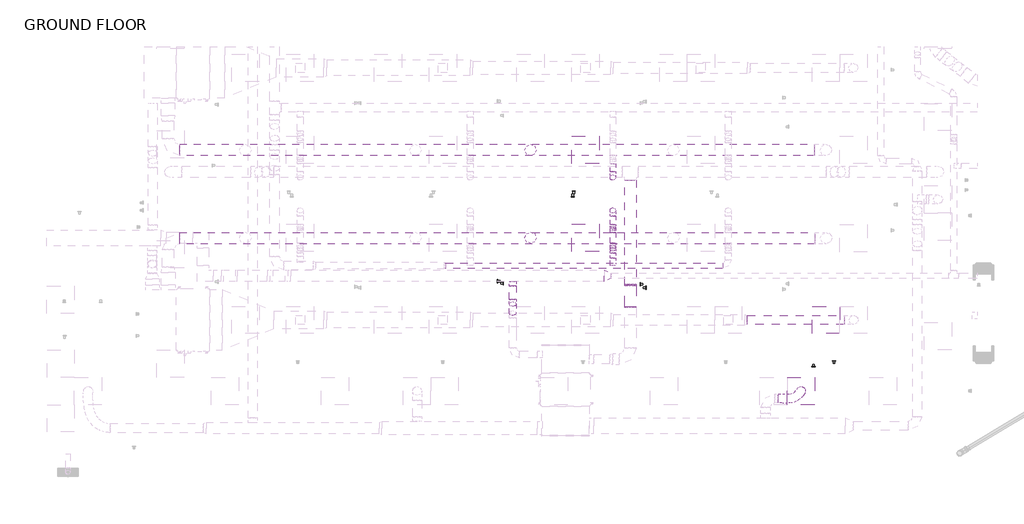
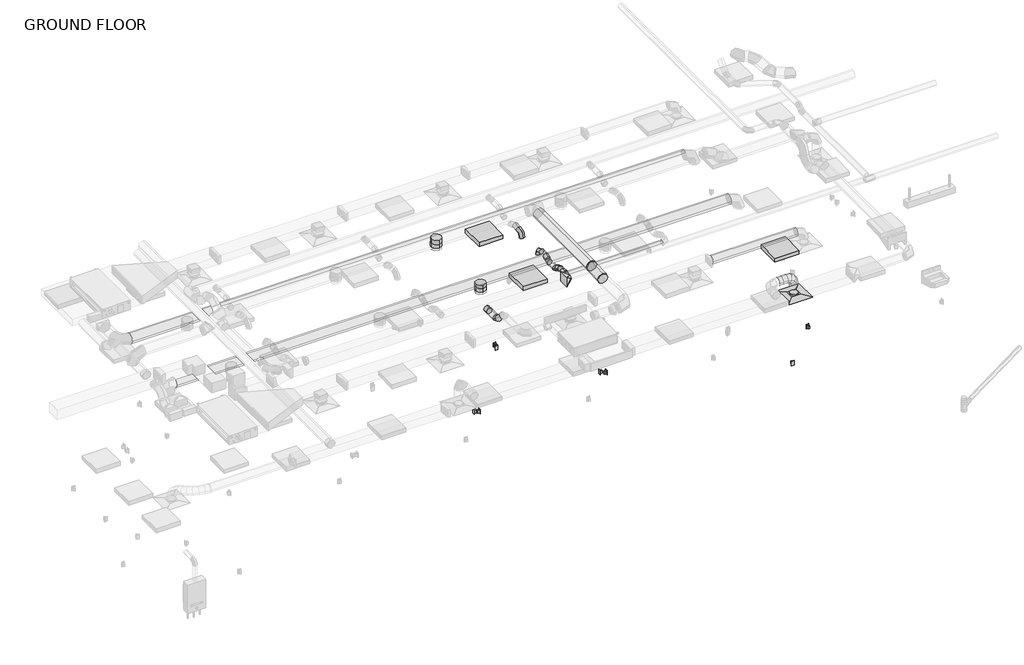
# One storey, part 5 of 21: 19 duct segments, 14 duct fittings, 7 proxies, 3 light fixtures, 1 air terminal, 1 switching device.
"""IFC4 building model written with IfcOpenShell, lengths in millimetres."""

from ifc_helpers import new_model, si_unit, point, frame, frame_2d, origin, place, context, project, spatial, circle_curve, ellipse_curve, trimmed, segment, composite_curve, outline, extrude, transform, mapped, element, save
from ifc_brep_helpers import plane_surface, cylinder_surface, advanced_brep
from components import air_terminal_e9020785, duplex_receptacle_countertop_10251bba, rectangular_to_round_transition_angle_45_degree_43dd9c00, round_elbow_1_d_c80420c1, round_elbow_1_d_9a27e954, round_elbow_1_d_e3dc691b, round_elbow_1_d_e085309a, round_elbow_1_d_538d8ec8, round_elbow_1_d_400cd2ab, round_elbow_1_d_88736f48, round_takeoff_standard_161717b3, round_takeoff_standard_0a2b6d05, round_takeoff_standard_c386a54e, round_takeoff_standard_cae0fe22, troffer_corner_insert_2x2_3lamp_e67c7f8f

model = new_model("IFC4")

# Units and contexts
model_context = context("Model", 3, world=origin())
ifc_project = project(units=[si_unit("LENGTHUNIT", "METRE", prefix="MILLI")], contexts=[model_context])

# Site, building, storey
site = spatial("IfcSite", under=ifc_project)
building = spatial("IfcBuilding", under=site)
storey = spatial("IfcBuildingStorey", under=building, Name="GROUND FLOOR", Elevation=30480.0)

# Air terminal
placement = place(None, origin())
air_terminal_shape = air_terminal_e9020785(model_context)
element("IfcAirTerminal", 1, ObjectType="Supply Diffuser - Rectangular Face Round Neck - Hosted : 24\"x24\" Face 8\" Neck - Hosted", at=placement, inside=storey, context=model_context, shape_type="MappedRepresentation", body=[
    mapped(air_terminal_shape, transform((7163.7545393, -5809.2554995, 33223.2), x_axis=(0.0, -1.0, 0.0), y_axis=(-1.0, 0.0, 0.0), z_axis=(0.0, 0.0, -1.0))),
])

# Proxies
duplex_receptacle_countertop_shape = duplex_receptacle_countertop_10251bba(model_context)
element("IfcBuildingElementProxy", 2, Name="Duplex Receptacle : Standard", ObjectType="Duplex Receptacle : Standard", at=placement, inside=storey, context=model_context, shape_type="MappedRepresentation", body=[
    mapped(duplex_receptacle_countertop_shape, transform((420.0545393, -3366.5857363, 30937.2), x_axis=(0.0, -1.0, 0.0), y_axis=(0.0, 0.0, 1.0), z_axis=(-1.0, 0.0, 0.0))),
])
element("IfcBuildingElementProxy", 3, Name="Duplex Receptacle : Standard", ObjectType="Duplex Receptacle : Standard", at=placement, inside=storey, context=model_context, shape_type="MappedRepresentation", body=[
    mapped(duplex_receptacle_countertop_shape, transform((2089.2187967, -1484.9054995, 30937.2), x_axis=(1.0, 0.0, 0.0), y_axis=(0.0, 0.0, 1.0), z_axis=(0.0, -1.0, 0.0))),
])
element("IfcBuildingElementProxy", 4, Name="Duplex Receptacle : Standard", ObjectType="Duplex Receptacle : Standard", at=placement, inside=storey, context=model_context, shape_type="MappedRepresentation", body=[
    mapped(duplex_receptacle_countertop_shape, transform((543.8795393, -3410.6637519, 30937.2), x_axis=(0.0, 1.0, 0.0), y_axis=(0.0, 0.0, 1.0), z_axis=(1.0, 0.0, 0.0))),
])
element("IfcBuildingElementProxy", 5, Name="Duplex Receptacle : Standard", ObjectType="Duplex Receptacle : Standard", at=placement, inside=storey, context=model_context, shape_type="MappedRepresentation", body=[
    mapped(duplex_receptacle_countertop_shape, transform((3591.8795393, -3432.7027596, 30937.2), x_axis=(0.0, -1.0, 0.0), y_axis=(0.0, 0.0, 1.0), z_axis=(-1.0, 0.0, 0.0))),
])
element("IfcBuildingElementProxy", 6, Name="Duplex Receptacle : Standard", ObjectType="Duplex Receptacle : Standard", at=placement, inside=storey, context=model_context, shape_type="MappedRepresentation", body=[
    mapped(duplex_receptacle_countertop_shape, transform((3715.7045393, -3509.8392868, 30937.2), x_axis=(0.0, 1.0, 0.0), y_axis=(0.0, 0.0, 1.0), z_axis=(1.0, 0.0, 0.0))),
])
element("IfcBuildingElementProxy", 7, Name="Duplex Receptacle : Standard", ObjectType="Duplex Receptacle : Standard", at=placement, inside=storey, context=model_context, shape_type="MappedRepresentation", body=[
    mapped(duplex_receptacle_countertop_shape, transform((2111.2578044, -1361.0804995, 30937.2), x_axis=(-1.0, 0.0, 0.0), y_axis=(0.0, 0.0, 1.0), z_axis=(0.0, 1.0, 0.0))),
])
element("IfcBuildingElementProxy", 8, Name="Duplex Receptacle : Standard", ObjectType="Duplex Receptacle : Standard", at=placement, inside=storey, context=model_context, shape_type="MappedRepresentation", body=[
    mapped(duplex_receptacle_countertop_shape, transform((7444.6976826, -5266.3304995, 30937.2), x_axis=(1.0, 0.0, 0.0), y_axis=(0.0, 0.0, 1.0), z_axis=(0.0, -1.0, 0.0))),
])

# Duct fittings
rectangular_to_round_transition_angle_45_degree_shape = rectangular_to_round_transition_angle_45_degree_43dd9c00(model_context)
element("IfcDuctFitting", 9, ObjectType="Rectangular to Round Transition - Angle : 45 Degree", at=placement, inside=storey, context=model_context, shape_type="MappedRepresentation", body=[
    mapped(rectangular_to_round_transition_angle_45_degree_shape, transform((2787.255189, -3245.6216457, 33602.867541), x_axis=(1.0, 0.0, 0.0), y_axis=(0.0, 1.0, 0.0), z_axis=(0.0, 0.0, 1.0))),
])
round_elbow_1_d_shape = round_elbow_1_d_c80420c1(model_context)
element("IfcDuctFitting", 10, ObjectType="Round Elbow : 1 D", at=placement, inside=storey, context=model_context, shape_type="MappedRepresentation", body=[
    mapped(round_elbow_1_d_shape, transform((2982.2795393, -1056.2804995, 33477.2), x_axis=(0.0, -1.0, 0.0), y_axis=(0.0, 0.0, -1.0), z_axis=(1.0, 0.0, 0.0))),
])
round_elbow_1_d_2_shape = round_elbow_1_d_9a27e954(model_context)
element("IfcDuctFitting", 11, ObjectType="Round Elbow : 1 D", at=placement, inside=storey, context=model_context, shape_type="MappedRepresentation", body=[
    mapped(round_elbow_1_d_2_shape, transform((752.8182219, -3830.5749464, 33602.867541), x_axis=(0.0, -1.0, 0.0), y_axis=(0.0, 0.0, 1.0), z_axis=(-1.0, 0.0, 0.0))),
])
round_elbow_1_d_3_shape = round_elbow_1_d_e3dc691b(model_context)
element("IfcDuctFitting", 12, ObjectType="Round Elbow : 1 D", at=placement, inside=storey, context=model_context, shape_type="MappedRepresentation", body=[
    mapped(round_elbow_1_d_3_shape, transform((2982.2795393, -2571.0260053, 33410.2114474), x_axis=(0.0, 0.7071067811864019, -0.7071067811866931), y_axis=(0.0, 0.7071067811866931, 0.7071067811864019), z_axis=(1.0, 0.0, 0.0))),
])
element("IfcDuctFitting", 13, ObjectType="Round Elbow : 1 D", at=placement, inside=storey, context=model_context, shape_type="MappedRepresentation", body=[
    mapped(round_elbow_1_d_3_shape, transform((2982.2795393, -2688.8145579, 33528.0), x_axis=(0.0, -0.707106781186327, 0.7071067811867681), y_axis=(0.0, -0.7071067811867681, -0.707106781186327), z_axis=(1.0, 0.0, 0.0))),
])
round_elbow_1_d_4_shape = round_elbow_1_d_e085309a(model_context)
element("IfcDuctFitting", 14, ObjectType="Round Elbow : 1 D", at=placement, inside=storey, context=model_context, shape_type="MappedRepresentation", body=[
    mapped(round_elbow_1_d_4_shape, transform((3373.2082034, -3453.3930718, 33883.6), x_axis=(0.0, -1.0, 0.0), y_axis=(0.0, 0.0, -1.0), z_axis=(1.0, 0.0, 0.0))),
])
element("IfcDuctFitting", 15, ObjectType="Round Elbow : 1 D", at=placement, inside=storey, context=model_context, shape_type="MappedRepresentation", body=[
    mapped(round_elbow_1_d_4_shape, transform((3373.2082034, -3943.4269358, 33846.29375), x_axis=(0.0, 1.0, 0.0), y_axis=(0.0, 0.0, 1.0), z_axis=(1.0, 0.0, 0.0))),
])
round_elbow_1_d_5_shape = round_elbow_1_d_538d8ec8(model_context)
element("IfcDuctFitting", 16, ObjectType="Round Elbow : 1 D", at=placement, inside=storey, context=model_context, shape_type="MappedRepresentation", body=[
    mapped(round_elbow_1_d_5_shape, transform((2982.2795393, -2238.2198452, 33410.2114474), x_axis=(0.0, -0.8191520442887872, -0.5735764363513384), y_axis=(0.0, -0.5735764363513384, 0.8191520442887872), z_axis=(-1.0, 0.0, 0.0))),
])
round_elbow_1_d_6_shape = round_elbow_1_d_400cd2ab(model_context)
element("IfcDuctFitting", 17, ObjectType="Round Elbow : 1 D", at=placement, inside=storey, context=model_context, shape_type="MappedRepresentation", body=[
    mapped(round_elbow_1_d_6_shape, transform((2982.2795393, -1789.7054995, 33477.2), x_axis=(0.0, 1.0, 0.0), y_axis=(0.0, 0.0, 1.0), z_axis=(1.0, 0.0, 0.0))),
])
round_elbow_1_d_7_shape = round_elbow_1_d_88736f48(model_context)
element("IfcDuctFitting", 18, ObjectType="Round Elbow : 1 D", at=placement, inside=storey, context=model_context, shape_type="MappedRepresentation", body=[
    mapped(round_elbow_1_d_7_shape, transform((2982.2795393, -2142.5502773, 33477.2), x_axis=(0.0, -1.0, 0.0), y_axis=(0.0, 0.0, 1.0), z_axis=(-1.0, 0.0, 0.0))),
])
round_takeoff_standard_shape = round_takeoff_standard_161717b3(model_context)
element("IfcDuctFitting", 19, ObjectType="Round Takeoff : Standard", at=placement, inside=storey, context=model_context, shape_type="MappedRepresentation", body=[
    mapped(round_takeoff_standard_shape, transform((1153.4795393, -2399.3054995, 33490.69375), x_axis=(0.0, 0.0, -1.0), y_axis=(-1.0, 0.0, 0.0), z_axis=(0.0, 1.0, 0.0))),
])
round_takeoff_standard_2_shape = round_takeoff_standard_0a2b6d05(model_context)
element("IfcDuctFitting", 20, ObjectType="Round Takeoff : Standard", at=placement, inside=storey, context=model_context, shape_type="MappedRepresentation", body=[
    mapped(round_takeoff_standard_2_shape, transform((752.8182219, -3372.6216457, 33602.867541), x_axis=(0.0, -1.0, 0.0), y_axis=(1.0, 0.0, 0.0), z_axis=(0.0, 0.0, 1.0))),
])
round_takeoff_standard_3_shape = round_takeoff_standard_c386a54e(model_context)
element("IfcDuctFitting", 21, ObjectType="Round Takeoff : Standard", at=placement, inside=storey, context=model_context, shape_type="MappedRepresentation", body=[
    mapped(round_takeoff_standard_3_shape, transform((1153.4795393, -446.6804995, 33490.69375), x_axis=(0.0, 0.0, -1.0), y_axis=(-1.0, 0.0, 0.0), z_axis=(0.0, 1.0, 0.0))),
])
round_takeoff_standard_4_shape = round_takeoff_standard_cae0fe22(model_context)
element("IfcDuctFitting", 22, ObjectType="Round Takeoff : Standard", at=placement, inside=storey, context=model_context, shape_type="MappedRepresentation", body=[
    mapped(round_takeoff_standard_4_shape, transform((2982.2795393, -2955.5145579, 33528.0), x_axis=(0.0, 1.0, 0.0), y_axis=(1.0, 0.0, 0.0), z_axis=(0.0, 0.0, -1.0))),
])

# Duct segments
element("IfcDuctSegment", 23, ObjectType="Flex - Round", at=placement, inside=storey, context=model_context, shape_type="AdvancedBrep", body=[
    advanced_brep(
    [(6657.0154749, -5873.2850038, 33832.8), (6657.0154749, -5974.8850038, 33731.2), (6657.0154749, -6076.4850038, 33832.8), (6657.0154749, -5974.8850038, 33934.4), (6664.1604734, -5873.2850038, 33832.8), (6665.7378942, -5974.8850038, 33731.2), (6661.2728618, -6076.4850038, 33832.8), (6659.6954409, -5974.8850038, 33934.4), (7129.0124065, -5713.7801403, 33277.175), (7259.2298985, -5774.5133667, 33277.175), (7198.4966721, -5904.7308586, 33277.175), (7068.2791801, -5843.9976323, 33277.175), (6761.7393941, -5876.0613465, 33838.6096182), (6764.2748739, -5977.6886054, 33737.0666588), (6757.0979688, -6079.2114465, 33838.5052003), (6754.5624889, -5977.5841875, 33940.0481597), (6856.6277847, -5877.7028295, 33842.044493), (6852.1190413, -5979.2082298, 33740.246539), (6864.8566466, -6081.0755738, 33842.405968), (6869.3653901, -5979.5701735, 33944.203922), (6931.5454276, -5870.2568398, 33826.4432762), (6909.7778917, -5973.4775742, 33728.2393776), (6969.4566581, -6070.6794831, 33820.6235494), (6991.2241939, -5967.4587487, 33918.8274479), (6991.5818588, -5850.531499, 33783.6357716), (6953.2151869, -5959.2059823, 33697.2674799), (7053.4419158, -6043.0856073, 33760.7399215), (7091.8085877, -5934.411124, 33847.1082133), (7042.2601994, -5820.1278131, 33712.3335862), (6994.1395219, -5934.654061, 33639.6887492), (7113.2263536, -6007.2188593, 33676.6258598), (7161.3470311, -5892.6926114, 33749.2706968), (7081.4386198, -5784.4954246, 33618.3222411), (7027.690537, -5904.1397424, 33559.1807545), (7154.2398269, -5969.9175083, 33578.2111776), (7207.9879096, -5850.2731906, 33637.3526642), (7108.4914029, -5750.2738045, 33509.6614918), (7051.0725508, -5874.561625, 33465.2640908), (7180.3960787, -5936.8299952, 33473.1514537), (7237.8149309, -5812.5421747, 33517.5488548), (7124.0629565, -5724.2123836, 33393.9600667), (7064.2109738, -5852.5724273, 33367.6415734), (7194.3387271, -5913.4948009, 33369.5532945), (7254.1907099, -5785.1347572, 33395.8717878), (7129.0124065, -5713.7801403, 33291.4495769), (7068.2791801, -5843.9976323, 33283.3829523), (7198.4966721, -5904.7308586, 33283.4360529), (7259.2298985, -5774.5133667, 33291.5026776)],
    [
        (0, 1, circle_curve(frame((6657.0154749, -5974.8850038, 33832.8), z_axis=(-1.0, 0.0, 0.0), x_axis=(0.0, 1.0, 0.0)), 101.6)),
        (1, 2, circle_curve(frame((6657.0154749, -5974.8850038, 33832.8), z_axis=(-1.0, 0.0, 0.0), x_axis=(0.0, 1.0, 0.0)), 101.6)),
        (2, 3, circle_curve(frame((6657.0154749, -5974.8850038, 33832.8), z_axis=(-1.0, 0.0, 0.0), x_axis=(0.0, 1.0, 0.0)), 101.6)),
        (3, 0, circle_curve(frame((6657.0154749, -5974.8850038, 33832.8), z_axis=(-1.0, 0.0, 0.0), x_axis=(0.0, 1.0, 0.0)), 101.6)),
        (0, 4),
        (4, 5, ellipse_curve(frame((6662.7166676, -5974.8850038, 33832.8), z_axis=(-0.9994573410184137, 0.014202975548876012, -0.02972034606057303), x_axis=(-0.032939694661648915, -0.43094716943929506, 0.9017757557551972)), 101.6551641, 101.6)),
        (5, 1),
        (5, 6, ellipse_curve(frame((6662.7166676, -5974.8850038, 33832.8), z_axis=(-0.9994573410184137, 0.014202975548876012, -0.02972034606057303), x_axis=(-0.032939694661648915, -0.43094716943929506, 0.9017757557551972)), 101.6551641, 101.6)),
        (6, 2),
        (6, 7, ellipse_curve(frame((6662.7166676, -5974.8850038, 33832.8), z_axis=(-0.9994573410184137, 0.014202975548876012, -0.02972034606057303), x_axis=(-0.032939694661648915, -0.43094716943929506, 0.9017757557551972)), 101.6551641, 101.6)),
        (7, 3),
        (7, 4, ellipse_curve(frame((6662.7166676, -5974.8850038, 33832.8), z_axis=(-0.9994573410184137, 0.014202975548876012, -0.02972034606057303), x_axis=(-0.032939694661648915, -0.43094716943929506, 0.9017757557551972)), 101.6551641, 101.6)),
        (8, 9, circle_curve(frame((7163.7545393, -5809.2554995, 33277.175), z_axis=(0.0, 0.0, -1.0), x_axis=(-0.3419501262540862, 0.9397181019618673, 0.0)), 101.6)),
        (9, 10, circle_curve(frame((7163.7545393, -5809.2554995, 33277.175), z_axis=(0.0, 0.0, -1.0), x_axis=(-0.3419501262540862, 0.9397181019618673, 0.0)), 101.6)),
        (10, 11, circle_curve(frame((7163.7545393, -5809.2554995, 33277.175), z_axis=(0.0, 0.0, -1.0), x_axis=(-0.3419501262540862, 0.9397181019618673, 0.0)), 101.6)),
        (11, 8, circle_curve(frame((7163.7545393, -5809.2554995, 33277.175), z_axis=(0.0, 0.0, -1.0), x_axis=(-0.3419501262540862, 0.9397181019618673, 0.0)), 101.6)),
        (4, 12),
        (12, 13, ellipse_curve(frame((6759.4186814, -5977.6363965, 33838.5574093), z_axis=(-0.9985960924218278, 0.02283976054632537, -0.04779319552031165), x_axis=(0.05297021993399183, 0.43057581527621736, -0.9009986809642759)), 101.6084493, 101.6)),
        (13, 5),
        (13, 14, ellipse_curve(frame((6759.4186814, -5977.6363965, 33838.5574093), z_axis=(-0.9985960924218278, 0.02283976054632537, -0.04779319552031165), x_axis=(0.05297021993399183, 0.43057581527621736, -0.9009986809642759)), 101.6084493, 101.6)),
        (14, 6),
        (14, 15, ellipse_curve(frame((6759.4186814, -5977.6363965, 33838.5574093), z_axis=(-0.9985960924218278, 0.02283976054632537, -0.04779319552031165), x_axis=(0.05297021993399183, 0.43057581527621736, -0.9009986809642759)), 101.6084493, 101.6)),
        (15, 7),
        (15, 12, ellipse_curve(frame((6759.4186814, -5977.6363965, 33838.5574093), z_axis=(-0.9985960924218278, 0.02283976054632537, -0.04779319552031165), x_axis=(0.05297021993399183, 0.43057581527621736, -0.9009986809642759)), 101.6084493, 101.6)),
        (12, 16),
        (16, 17, ellipse_curve(frame((6860.7422157, -5979.3892016, 33842.2252305), z_axis=(-0.9956470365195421, -0.04013632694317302, 0.0841192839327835), x_axis=(-0.09320396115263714, 0.42892086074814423, -0.8985209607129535)), 102.5112915, 101.6)),
        (17, 13),
        (17, 18, ellipse_curve(frame((6860.7422157, -5979.3892016, 33842.2252305), z_axis=(-0.9956470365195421, -0.04013632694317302, 0.0841192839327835), x_axis=(-0.09320396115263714, 0.42892086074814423, -0.8985209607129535)), 102.5112915, 101.6)),
        (18, 14),
        (18, 19, ellipse_curve(frame((6860.7422157, -5979.3892016, 33842.2252305), z_axis=(-0.9956470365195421, -0.04013632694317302, 0.0841192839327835), x_axis=(-0.09320396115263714, 0.42892086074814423, -0.8985209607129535)), 102.5112915, 101.6)),
        (19, 15),
        (19, 16, ellipse_curve(frame((6860.7422157, -5979.3892016, 33842.2252305), z_axis=(-0.9956470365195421, -0.04013632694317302, 0.0841192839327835), x_axis=(-0.09320396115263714, 0.42892086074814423, -0.8985209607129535)), 102.5112915, 101.6)),
        (16, 20),
        (20, 21, ellipse_curve(frame((6950.5010428, -5970.4681614, 33823.5334128), z_axis=(-0.9021059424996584, -0.1820001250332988, 0.39125544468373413), x_axis=(-0.431492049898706, 0.37118796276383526, -0.8222129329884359)), 104.0957078, 101.6)),
        (21, 17),
        (21, 22, ellipse_curve(frame((6950.5010428, -5970.4681614, 33823.5334128), z_axis=(-0.9021059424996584, -0.1820001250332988, 0.39125544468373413), x_axis=(-0.431492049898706, 0.37118796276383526, -0.8222129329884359)), 104.0957078, 101.6)),
        (22, 18),
        (22, 23, ellipse_curve(frame((6950.5010428, -5970.4681614, 33823.5334128), z_axis=(-0.9021059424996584, -0.1820001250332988, 0.39125544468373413), x_axis=(-0.431492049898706, 0.37118796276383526, -0.8222129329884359)), 104.0957078, 101.6)),
        (23, 19),
        (23, 20, ellipse_curve(frame((6950.5010428, -5970.4681614, 33823.5334128), z_axis=(-0.9021059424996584, -0.1820001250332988, 0.39125544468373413), x_axis=(-0.431492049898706, 0.37118796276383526, -0.8222129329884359)), 104.0957078, 101.6)),
        (20, 24),
        (24, 25, ellipse_curve(frame((7022.5118873, -5946.8085531, 33772.1878466), z_axis=(-0.6758957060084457, -0.297324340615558, 0.6743613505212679), x_axis=(-0.7355448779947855, 0.21472022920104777, -0.6425487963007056)), 102.9719529, 101.6)),
        (25, 21),
        (25, 26, ellipse_curve(frame((7022.5118873, -5946.8085531, 33772.1878466), z_axis=(-0.6758957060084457, -0.297324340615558, 0.6743613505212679), x_axis=(-0.7355448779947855, 0.21472022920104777, -0.6425487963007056)), 102.9719529, 101.6)),
        (26, 22),
        (26, 27, ellipse_curve(frame((7022.5118873, -5946.8085531, 33772.1878466), z_axis=(-0.6758957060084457, -0.297324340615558, 0.6743613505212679), x_axis=(-0.7355448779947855, 0.21472022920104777, -0.6425487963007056)), 102.9719529, 101.6)),
        (27, 23),
        (27, 24, ellipse_curve(frame((7022.5118873, -5946.8085531, 33772.1878466), z_axis=(-0.6758957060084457, -0.297324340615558, 0.6743613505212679), x_axis=(-0.7355448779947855, 0.21472022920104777, -0.6425487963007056)), 102.9719529, 101.6)),
        (24, 28),
        (28, 29, ellipse_curve(frame((7077.7432765, -5913.6733362, 33694.479723), z_axis=(-0.457692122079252, -0.3310971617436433, 0.8251621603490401), x_axis=(-0.8760103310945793, 0.009199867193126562, -0.48220458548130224)), 102.1657648, 101.6)),
        (29, 25),
        (29, 30, ellipse_curve(frame((7077.7432765, -5913.6733362, 33694.479723), z_axis=(-0.457692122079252, -0.3310971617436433, 0.8251621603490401), x_axis=(-0.8760103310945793, 0.009199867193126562, -0.48220458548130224)), 102.1657648, 101.6)),
        (30, 26),
        (30, 31, ellipse_curve(frame((7077.7432765, -5913.6733362, 33694.479723), z_axis=(-0.457692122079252, -0.3310971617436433, 0.8251621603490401), x_axis=(-0.8760103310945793, 0.009199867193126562, -0.48220458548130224)), 102.1657648, 101.6)),
        (31, 27),
        (31, 28, ellipse_curve(frame((7077.7432765, -5913.6733362, 33694.479723), z_axis=(-0.457692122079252, -0.3310971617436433, 0.8251621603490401), x_axis=(-0.8760103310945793, 0.009199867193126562, -0.48220458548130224)), 102.1657648, 101.6)),
        (28, 32),
        (32, 33, ellipse_curve(frame((7117.8392233, -5877.2064665, 33598.2667093), z_axis=(-0.2978920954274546, -0.31211207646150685, 0.9021343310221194), x_axis=(-0.8883127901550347, -0.2553802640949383, -0.3816822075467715)), 101.881816, 101.6)),
        (33, 29),
        (33, 34, ellipse_curve(frame((7117.8392233, -5877.2064665, 33598.2667093), z_axis=(-0.2978920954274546, -0.31211207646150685, 0.9021343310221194), x_axis=(-0.8883127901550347, -0.2553802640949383, -0.3816822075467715)), 101.881816, 101.6)),
        (34, 30),
        (34, 35, ellipse_curve(frame((7117.8392233, -5877.2064665, 33598.2667093), z_axis=(-0.2978920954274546, -0.31211207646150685, 0.9021343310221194), x_axis=(-0.8883127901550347, -0.2553802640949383, -0.3816822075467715)), 101.881816, 101.6)),
        (35, 31),
        (35, 32, ellipse_curve(frame((7117.8392233, -5877.2064665, 33598.2667093), z_axis=(-0.2978920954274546, -0.31211207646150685, 0.9021343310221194), x_axis=(-0.8883127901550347, -0.2553802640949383, -0.3816822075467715)), 101.881816, 101.6)),
        (32, 36),
        (36, 37, ellipse_curve(frame((7144.4437408, -5843.5518998, 33491.4064728), z_axis=(-0.18100034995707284, -0.25562117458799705, 0.9496824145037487), x_axis=(-0.7679988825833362, -0.5664544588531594, -0.2988428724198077)), 101.8197707, 101.6)),
        (37, 33),
        (37, 38, ellipse_curve(frame((7144.4437408, -5843.5518998, 33491.4064728), z_axis=(-0.18100034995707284, -0.25562117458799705, 0.9496824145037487), x_axis=(-0.7679988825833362, -0.5664544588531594, -0.2988428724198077)), 101.8197707, 101.6)),
        (38, 34),
        (38, 39, ellipse_curve(frame((7144.4437408, -5843.5518998, 33491.4064728), z_axis=(-0.18100034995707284, -0.25562117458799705, 0.9496824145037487), x_axis=(-0.7679988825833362, -0.5664544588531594, -0.2988428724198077)), 101.8197707, 101.6)),
        (39, 35),
        (39, 36, ellipse_curve(frame((7144.4437408, -5843.5518998, 33491.4064728), z_axis=(-0.18100034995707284, -0.25562117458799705, 0.9496824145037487), x_axis=(-0.7679988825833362, -0.5664544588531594, -0.2988428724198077)), 101.8197707, 101.6)),
        (36, 40),
        (40, 41, ellipse_curve(frame((7159.2008418, -5818.8535922, 33381.7566806), z_axis=(-0.08931381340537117, -0.15992202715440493, 0.9830808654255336), x_axis=(-0.5660673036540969, -0.803969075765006, -0.18221287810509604)), 101.8688525, 101.6)),
        (41, 37),
        (41, 42, ellipse_curve(frame((7159.2008418, -5818.8535922, 33381.7566806), z_axis=(-0.08931381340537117, -0.15992202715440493, 0.9830808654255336), x_axis=(-0.5660673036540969, -0.803969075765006, -0.18221287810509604)), 101.8688525, 101.6)),
        (42, 38),
        (42, 43, ellipse_curve(frame((7159.2008418, -5818.8535922, 33381.7566806), z_axis=(-0.08931381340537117, -0.15992202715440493, 0.9830808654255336), x_axis=(-0.5660673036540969, -0.803969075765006, -0.18221287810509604)), 101.8688525, 101.6)),
        (43, 39),
        (43, 40, ellipse_curve(frame((7159.2008418, -5818.8535922, 33381.7566806), z_axis=(-0.08931381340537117, -0.15992202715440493, 0.9830808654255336), x_axis=(-0.5660673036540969, -0.803969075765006, -0.18221287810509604)), 101.8688525, 101.6)),
        (40, 44),
        (44, 45, ellipse_curve(frame((7163.7545393, -5809.2554995, 33287.4428149), z_axis=(-0.024027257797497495, -0.05064364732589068, 0.9984277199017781), x_axis=(-0.42796835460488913, -0.9020537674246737, -0.056054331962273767)), 101.7599952, 101.6)),
        (45, 41),
        (45, 46, ellipse_curve(frame((7163.7545393, -5809.2554995, 33287.4428149), z_axis=(-0.024027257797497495, -0.05064364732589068, 0.9984277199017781), x_axis=(-0.42796835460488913, -0.9020537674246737, -0.056054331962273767)), 101.7599952, 101.6)),
        (46, 42),
        (46, 47, ellipse_curve(frame((7163.7545393, -5809.2554995, 33287.4428149), z_axis=(-0.024027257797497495, -0.05064364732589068, 0.9984277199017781), x_axis=(-0.42796835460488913, -0.9020537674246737, -0.056054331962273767)), 101.7599952, 101.6)),
        (47, 43),
        (47, 44, ellipse_curve(frame((7163.7545393, -5809.2554995, 33287.4428149), z_axis=(-0.024027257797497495, -0.05064364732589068, 0.9984277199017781), x_axis=(-0.42796835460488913, -0.9020537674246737, -0.056054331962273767)), 101.7599952, 101.6)),
        (44, 8),
        (11, 45),
        (10, 46),
        (9, 47),
    ],
    [
        plane_surface(frame((6657.0154749, -5974.8850038, 33731.2), z_axis=(-1.0, 0.0, 0.0), x_axis=(0.0, 1.0, 0.0))),
        cylinder_surface(frame((6657.0154749, -5974.8850038, 33832.8), z_axis=(-1.0, 0.0, 0.0), x_axis=(0.0, 1.0, 0.0)), 101.6),
        plane_surface(frame((7163.7545393, -5910.8554995, 33277.175), z_axis=(0.0, 0.0, -1.0), x_axis=(-1.0, 0.0, 0.0))),
        cylinder_surface(frame((6662.7166676, -5974.8850038, 33832.8), z_axis=(-0.9978299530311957, 0.02839053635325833, -0.05940843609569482), x_axis=(0.028390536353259, 0.9995965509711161, 0.0008442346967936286)), 101.6),
        cylinder_surface(frame((6759.4186814, -5977.6363965, 33838.5574093), z_axis=(-0.9991961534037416, 0.017285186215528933, -0.03617000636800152), x_axis=(0.0172851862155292, 0.9998505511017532, 0.00031272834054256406)), 101.6),
        cylinder_surface(frame((6860.7422157, -5979.3892016, 33842.2252305), z_axis=(-0.974395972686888, -0.0968442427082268, 0.2029129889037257), x_axis=(-0.09684377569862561, 0.9952498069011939, 0.00995514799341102)), 101.6),
        cylinder_surface(frame((6950.5010428, -5970.4681614, 33823.5334128), z_axis=(-0.7865597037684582, -0.25842905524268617, 0.5608371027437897), x_axis=(-0.25900135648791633, 0.9625344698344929, 0.08028506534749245)), 101.6),
        cylinder_surface(frame((7022.5118873, -5946.8085531, 33772.1878466), z_axis=(-0.5472210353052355, -0.328296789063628, 0.7699158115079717), x_axis=(-0.3360343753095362, 0.9286478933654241, 0.15714321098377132)), 101.6),
        cylinder_surface(frame((7077.7432765, -5913.6733362, 33694.479723), z_axis=(-0.3630940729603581, -0.33023049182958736, 0.8712694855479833), x_axis=(-0.35800704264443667, 0.9127527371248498, 0.1967572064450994)), 101.6),
        cylinder_surface(frame((7117.8392233, -5877.2064665, 33598.2667093), z_axis=(-0.23104211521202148, -0.29226699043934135, 0.9280083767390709), x_axis=(-0.3584433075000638, 0.9122956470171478, 0.19807838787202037)), 101.6),
        cylinder_surface(frame((7144.4437408, -5843.5518998, 33491.4064728), z_axis=(-0.13017723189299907, -0.21787187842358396, 0.9672568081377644), x_axis=(-0.35128009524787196, 0.9224120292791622, 0.16049405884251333)), 101.6),
        cylinder_surface(frame((7159.2008418, -5818.8535922, 33381.7566806), z_axis=(-0.047978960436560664, -0.10112804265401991, 0.993715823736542), x_axis=(-0.3438422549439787, 0.935729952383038, 0.07862544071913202)), 101.6),
        cylinder_surface(frame((7163.7545393, -5809.2554995, 33287.4428149), z_axis=(0.0, 0.0, 1.0), x_axis=(-0.3419501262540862, 0.9397181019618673, 0.0)), 101.6),
    ],
    [
        (0, [[1, 2, 3, 4]]),
        (1, [[-1, 5, 6, 7]]),
        (1, [[-2, -7, 8, 9]]),
        (1, [[-3, -9, 10, 11]]),
        (1, [[-4, -11, 12, -5]]),
        (2, [[13, 14, 15, 16]]),
        (3, [[-6, 17, 18, 19]]),
        (3, [[-8, -19, 20, 21]]),
        (3, [[-10, -21, 22, 23]]),
        (3, [[-12, -23, 24, -17]]),
        (4, [[-18, 25, 26, 27]]),
        (4, [[-20, -27, 28, 29]]),
        (4, [[-22, -29, 30, 31]]),
        (4, [[-24, -31, 32, -25]]),
        (5, [[-26, 33, 34, 35]]),
        (5, [[-28, -35, 36, 37]]),
        (5, [[-30, -37, 38, 39]]),
        (5, [[-32, -39, 40, -33]]),
        (6, [[-34, 41, 42, 43]]),
        (6, [[-36, -43, 44, 45]]),
        (6, [[-38, -45, 46, 47]]),
        (6, [[-40, -47, 48, -41]]),
        (7, [[-42, 49, 50, 51]]),
        (7, [[-44, -51, 52, 53]]),
        (7, [[-46, -53, 54, 55]]),
        (7, [[-48, -55, 56, -49]]),
        (8, [[-50, 57, 58, 59]]),
        (8, [[-52, -59, 60, 61]]),
        (8, [[-54, -61, 62, 63]]),
        (8, [[-56, -63, 64, -57]]),
        (9, [[-58, 65, 66, 67]]),
        (9, [[-60, -67, 68, 69]]),
        (9, [[-62, -69, 70, 71]]),
        (9, [[-64, -71, 72, -65]]),
        (10, [[-66, 73, 74, 75]]),
        (10, [[-68, -75, 76, 77]]),
        (10, [[-70, -77, 78, 79]]),
        (10, [[-72, -79, 80, -73]]),
        (11, [[-74, 81, 82, 83]]),
        (11, [[-76, -83, 84, 85]]),
        (11, [[-78, -85, 86, 87]]),
        (11, [[-80, -87, 88, -81]]),
        (12, [[-82, 89, -16, 90]]),
        (12, [[-84, -90, -15, 91]]),
        (12, [[-86, -91, -14, 92]]),
        (12, [[-88, -92, -13, -89]]),
    ],
),
])
element("IfcDuctSegment", 24, ObjectType="Taps / Short Radius", at=placement, inside=storey, context=model_context, shape_type="SweptSolid", body=[
    extrude(outline(composite_curve([segment(trimmed(circle_curve(frame_2d((-4228.1054995, 33604.2)), 101.6), [point((-4126.5054995, 33604.2))], [point((-4228.1054995, 33502.6))], False, "CARTESIAN"), True, "CONTINUOUS"), segment(trimmed(circle_curve(frame_2d((-4228.1054995, 33604.2)), 101.6), [point((-4228.1054995, 33502.6))], [point((-4329.7054995, 33604.2))], False, "CARTESIAN"), True, "CONTINUOUS"), segment(trimmed(circle_curve(frame_2d((-4228.1054995, 33604.2)), 101.6), [point((-4329.7054995, 33604.2))], [point((-4228.1054995, 33705.8))], False, "CARTESIAN"), True, "CONTINUOUS"), segment(trimmed(circle_curve(frame_2d((-4228.1054995, 33604.2)), 101.6), [point((-4228.1054995, 33705.8))], [point((-4126.5054995, 33604.2))], False, "CARTESIAN"), True, "CONTINUOUS")], self_intersect=False)), frame((5972.1335148, 0.0, 0.0), z_axis=(1.0, 0.0, 0.0), x_axis=(0.0, 1.0, 0.0)), (0.0, 0.0, 1.0), 2159.9960245),
])
element("IfcDuctSegment", 25, ObjectType="Taps / Short Radius", at=placement, inside=storey, context=model_context, shape_type="SweptSolid", body=[
    extrude(outline(composite_curve([segment(trimmed(circle_curve(frame_2d((33883.6, 3373.2082034)), 127.0), [point((33883.6, 3500.2082034))], [point((34010.6, 3373.2082034))], False, "CARTESIAN"), True, "CONTINUOUS"), segment(trimmed(circle_curve(frame_2d((33883.6, 3373.2082034)), 127.0), [point((34010.6, 3373.2082034))], [point((33883.6, 3246.2082034))], False, "CARTESIAN"), True, "CONTINUOUS"), segment(trimmed(circle_curve(frame_2d((33883.6, 3373.2082034)), 127.0), [point((33883.6, 3246.2082034))], [point((33756.6, 3373.2082034))], False, "CARTESIAN"), True, "CONTINUOUS"), segment(trimmed(circle_curve(frame_2d((33883.6, 3373.2082034)), 127.0), [point((33756.6, 3373.2082034))], [point((33883.6, 3500.2082034))], False, "CARTESIAN"), True, "CONTINUOUS")], self_intersect=False)), frame((0.0, -3443.7385377, 0.0), z_axis=(0.0, 1.0, 0.0), x_axis=(0.0, 0.0, 1.0)), (0.0, 0.0, 1.0), 2333.4830382),
])
element("IfcDuctSegment", 26, ObjectType="Taps / Short Radius", at=placement, inside=storey, context=model_context, shape_type="SweptSolid", body=[
    extrude(outline(composite_curve([segment(trimmed(circle_curve(frame_2d((1153.4795393, -2399.3054995)), 127.0), [point((1026.4795393, -2399.3054995))], [point((1153.4795393, -2272.3054995))], False, "CARTESIAN"), True, "CONTINUOUS"), segment(trimmed(circle_curve(frame_2d((1153.4795393, -2399.3054995)), 127.0), [point((1153.4795393, -2272.3054995))], [point((1280.4795393, -2399.3054995))], False, "CARTESIAN"), True, "CONTINUOUS"), segment(trimmed(circle_curve(frame_2d((1153.4795393, -2399.3054995)), 127.0), [point((1280.4795393, -2399.3054995))], [point((1153.4795393, -2526.3054995))], False, "CARTESIAN"), True, "CONTINUOUS"), segment(trimmed(circle_curve(frame_2d((1153.4795393, -2399.3054995)), 127.0), [point((1153.4795393, -2526.3054995))], [point((1026.4795393, -2399.3054995))], False, "CARTESIAN"), True, "CONTINUOUS")], self_intersect=False)), frame((0.0, 0.0, 33324.8), z_axis=(0.0, 0.0, 1.0), x_axis=(1.0, 0.0, 0.0)), (0.0, 0.0, 1.0), 64.29375),
])
element("IfcDuctSegment", 27, ObjectType="Taps / Short Radius", at=placement, inside=storey, context=model_context, shape_type="SweptSolid", body=[
    extrude(outline(composite_curve([segment(trimmed(circle_curve(frame_2d((-2407.6759121, 33617.69375)), 127.0), [point((-2280.6759121, 33617.69375))], [point((-2407.6759121, 33490.69375))], False, "CARTESIAN"), True, "CONTINUOUS"), segment(trimmed(circle_curve(frame_2d((-2407.6759121, 33617.69375)), 127.0), [point((-2407.6759121, 33490.69375))], [point((-2534.6759121, 33617.69375))], False, "CARTESIAN"), True, "CONTINUOUS"), segment(trimmed(circle_curve(frame_2d((-2407.6759121, 33617.69375)), 127.0), [point((-2534.6759121, 33617.69375))], [point((-2407.6759121, 33744.69375))], False, "CARTESIAN"), True, "CONTINUOUS"), segment(trimmed(circle_curve(frame_2d((-2407.6759121, 33617.69375)), 127.0), [point((-2407.6759121, 33744.69375))], [point((-2280.6759121, 33617.69375))], False, "CARTESIAN"), True, "CONTINUOUS")], self_intersect=False)), frame((-6651.278652, 0.0, 0.0), z_axis=(1.0, 0.0, 0.0), x_axis=(0.0, 1.0, 0.0)), (0.0, 0.0, 1.0), 14123.0081913),
])
element("IfcDuctSegment", 28, ObjectType="Taps / Short Radius", at=placement, inside=storey, context=model_context, shape_type="SweptSolid", body=[
    extrude(outline(composite_curve([segment(trimmed(circle_curve(frame_2d((-446.6804995, 33617.69375)), 127.0), [point((-319.6804995, 33617.69375))], [point((-446.6804995, 33490.69375))], False, "CARTESIAN"), True, "CONTINUOUS"), segment(trimmed(circle_curve(frame_2d((-446.6804995, 33617.69375)), 127.0), [point((-446.6804995, 33490.69375))], [point((-573.6804995, 33617.69375))], False, "CARTESIAN"), True, "CONTINUOUS"), segment(trimmed(circle_curve(frame_2d((-446.6804995, 33617.69375)), 127.0), [point((-573.6804995, 33617.69375))], [point((-446.6804995, 33744.69375))], False, "CARTESIAN"), True, "CONTINUOUS"), segment(trimmed(circle_curve(frame_2d((-446.6804995, 33617.69375)), 127.0), [point((-446.6804995, 33744.69375))], [point((-319.6804995, 33617.69375))], False, "CARTESIAN"), True, "CONTINUOUS")], self_intersect=False)), frame((-6653.4143044, 0.0, 0.0), z_axis=(1.0, 0.0, 0.0), x_axis=(0.0, 1.0, 0.0)), (0.0, 0.0, 1.0), 14118.6814771),
])
element("IfcDuctSegment", 29, ObjectType="Taps / Short Radius", at=placement, inside=storey, context=model_context, shape_type="SweptSolid", body=[
    extrude(outline(composite_curve([segment(trimmed(circle_curve(frame_2d((1153.4795393, -446.6804995)), 127.0), [point((1026.4795393, -446.6804995))], [point((1153.4795393, -319.6804995))], False, "CARTESIAN"), True, "CONTINUOUS"), segment(trimmed(circle_curve(frame_2d((1153.4795393, -446.6804995)), 127.0), [point((1153.4795393, -319.6804995))], [point((1280.4795393, -446.6804995))], False, "CARTESIAN"), True, "CONTINUOUS"), segment(trimmed(circle_curve(frame_2d((1153.4795393, -446.6804995)), 127.0), [point((1280.4795393, -446.6804995))], [point((1153.4795393, -573.6804995))], False, "CARTESIAN"), True, "CONTINUOUS"), segment(trimmed(circle_curve(frame_2d((1153.4795393, -446.6804995)), 127.0), [point((1153.4795393, -573.6804995))], [point((1026.4795393, -446.6804995))], False, "CARTESIAN"), True, "CONTINUOUS")], self_intersect=False)), frame((0.0, 0.0, 33324.8), z_axis=(0.0, 0.0, 1.0), x_axis=(1.0, 0.0, 0.0)), (0.0, 0.0, 1.0), 64.29375),
])
element("IfcDuctSegment", 30, ObjectType="Taps / Short Radius", at=placement, inside=storey, context=model_context, shape_type="SweptSolid", body=[
    extrude(outline(composite_curve([segment(trimmed(circle_curve(frame_2d((0.0, -127.0)), 127.0), [point((-127.0, -127.0))], [point((0.0, 0.0))], False, "CARTESIAN"), True, "CONTINUOUS"), segment(trimmed(circle_curve(frame_2d((0.0, -127.0)), 127.0), [point((0.0, 0.0))], [point((127.0, -127.0))], False, "CARTESIAN"), True, "CONTINUOUS"), segment(trimmed(circle_curve(frame_2d((0.0, -127.0)), 127.0), [point((127.0, -127.0))], [point((0.0, -254.0))], False, "CARTESIAN"), True, "CONTINUOUS"), segment(trimmed(circle_curve(frame_2d((0.0, -127.0)), 127.0), [point((0.0, -254.0))], [point((-127.0, -127.0))], False, "CARTESIAN"), True, "CONTINUOUS")], self_intersect=False)), frame((3373.2082034, -3924.1596527, 33720.3930676), z_axis=(0.0, 0.9971146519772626, 0.07591028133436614), x_axis=(1.0, 0.0, 0.0)), (0.0, 0.0, 1.0), 472.1428056),
])
element("IfcDuctSegment", 31, ObjectType="Taps / Short Radius", at=placement, inside=storey, context=model_context, shape_type="SweptSolid", body=[
    extrude(outline(composite_curve([segment(trimmed(circle_curve(frame_2d((33602.867541, 752.8182219)), 76.2), [point((33602.867541, 676.6182219))], [point((33526.667541, 752.8182219))], False, "CARTESIAN"), True, "CONTINUOUS"), segment(trimmed(circle_curve(frame_2d((33602.867541, 752.8182219)), 76.2), [point((33526.667541, 752.8182219))], [point((33602.867541, 829.0182219))], False, "CARTESIAN"), True, "CONTINUOUS"), segment(trimmed(circle_curve(frame_2d((33602.867541, 752.8182219)), 76.2), [point((33602.867541, 829.0182219))], [point((33679.067541, 752.8182219))], False, "CARTESIAN"), True, "CONTINUOUS"), segment(trimmed(circle_curve(frame_2d((33602.867541, 752.8182219)), 76.2), [point((33679.067541, 752.8182219))], [point((33602.867541, 676.6182219))], False, "CARTESIAN"), True, "CONTINUOUS")], self_intersect=False)), frame((0.0, -3767.4487995, 0.0), z_axis=(0.0, 1.0, 0.0), x_axis=(0.0, 0.0, 1.0)), (0.0, 0.0, 1.0), 293.2271538),
])
element("IfcDuctSegment", 32, ObjectType="Taps / Short Radius", at=placement, inside=storey, context=model_context, shape_type="SweptSolid", body=[
    extrude(outline(composite_curve([segment(trimmed(circle_curve(frame_2d((0.0, 76.2)), 76.2), [point((-76.2, 76.2))], [point((0.0, 152.4))], False, "CARTESIAN"), True, "CONTINUOUS"), segment(trimmed(circle_curve(frame_2d((0.0, 76.2)), 76.2), [point((0.0, 152.4))], [point((76.2, 76.2))], False, "CARTESIAN"), True, "CONTINUOUS"), segment(trimmed(circle_curve(frame_2d((0.0, 76.2)), 76.2), [point((76.2, 76.2))], [point((0.0, 0.0))], False, "CARTESIAN"), True, "CONTINUOUS"), segment(trimmed(circle_curve(frame_2d((0.0, 76.2)), 76.2), [point((0.0, 0.0))], [point((-76.2, 76.2))], False, "CARTESIAN"), True, "CONTINUOUS")], self_intersect=False)), frame((752.8182219, -3929.0934097, 33593.6229308), z_axis=(0.0, -0.7071067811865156, 0.7071067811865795), x_axis=(1.0, 0.0, 0.0)), (0.0, 0.0, 1.0), 280.8661453),
])
element("IfcDuctSegment", 33, ObjectType="Taps / Short Radius", at=placement, inside=storey, context=model_context, shape_type="SweptSolid", body=[
    extrude(outline(composite_curve([segment(trimmed(circle_curve(frame_2d((-3019.0145579, 33528.0)), 63.5), [point((-2955.5145579, 33528.0))], [point((-3019.0145579, 33464.5))], False, "CARTESIAN"), True, "CONTINUOUS"), segment(trimmed(circle_curve(frame_2d((-3019.0145579, 33528.0)), 63.5), [point((-3019.0145579, 33464.5))], [point((-3082.5145579, 33528.0))], False, "CARTESIAN"), True, "CONTINUOUS"), segment(trimmed(circle_curve(frame_2d((-3019.0145579, 33528.0)), 63.5), [point((-3082.5145579, 33528.0))], [point((-3019.0145579, 33591.5))], False, "CARTESIAN"), True, "CONTINUOUS"), segment(trimmed(circle_curve(frame_2d((-3019.0145579, 33528.0)), 63.5), [point((-3019.0145579, 33591.5))], [point((-2955.5145579, 33528.0))], False, "CARTESIAN"), True, "CONTINUOUS")], self_intersect=False)), frame((-731.976464, 0.0, 0.0), z_axis=(1.0, 0.0, 0.0), x_axis=(0.0, 1.0, 0.0)), (0.0, 0.0, 1.0), 6152.6446112),
])
element("IfcDuctSegment", 34, ObjectType="Taps / Short Radius", at=placement, inside=storey, context=model_context, shape_type="SweptSolid", body=[
    extrude(outline(composite_curve([segment(trimmed(circle_curve(frame_2d((2982.2795393, -1056.2804995)), 63.5), [point((2918.7795393, -1056.2804995))], [point((2982.2795393, -992.7804995))], False, "CARTESIAN"), True, "CONTINUOUS"), segment(trimmed(circle_curve(frame_2d((2982.2795393, -1056.2804995)), 63.5), [point((2982.2795393, -992.7804995))], [point((3045.7795393, -1056.2804995))], False, "CARTESIAN"), True, "CONTINUOUS"), segment(trimmed(circle_curve(frame_2d((2982.2795393, -1056.2804995)), 63.5), [point((3045.7795393, -1056.2804995))], [point((2982.2795393, -1119.7804995))], False, "CARTESIAN"), True, "CONTINUOUS"), segment(trimmed(circle_curve(frame_2d((2982.2795393, -1056.2804995)), 63.5), [point((2982.2795393, -1119.7804995))], [point((2918.7795393, -1056.2804995))], False, "CARTESIAN"), True, "CONTINUOUS")], self_intersect=False)), frame((0.0, 0.0, 33324.8), z_axis=(0.0, 0.0, 1.0), x_axis=(1.0, 0.0, 0.0)), (0.0, 0.0, 1.0), 25.4),
])
element("IfcDuctSegment", 35, ObjectType="Taps / Short Radius", at=placement, inside=storey, context=model_context, shape_type="SweptSolid", body=[
    extrude(outline(composite_curve([segment(trimmed(circle_curve(frame_2d((33477.2, 2982.2795393)), 63.5), [point((33477.2, 3045.7795393))], [point((33540.7, 2982.2795393))], False, "CARTESIAN"), True, "CONTINUOUS"), segment(trimmed(circle_curve(frame_2d((33477.2, 2982.2795393)), 63.5), [point((33540.7, 2982.2795393))], [point((33477.2, 2918.7795393))], False, "CARTESIAN"), True, "CONTINUOUS"), segment(trimmed(circle_curve(frame_2d((33477.2, 2982.2795393)), 63.5), [point((33477.2, 2918.7795393))], [point((33413.7, 2982.2795393))], False, "CARTESIAN"), True, "CONTINUOUS"), segment(trimmed(circle_curve(frame_2d((33477.2, 2982.2795393)), 63.5), [point((33413.7, 2982.2795393))], [point((33477.2, 3045.7795393))], False, "CARTESIAN"), True, "CONTINUOUS")], self_intersect=False)), frame((0.0, -929.2804995, 0.0), z_axis=(0.0, 1.0, 0.0), x_axis=(0.0, 0.0, 1.0)), (0.0, 0.0, 1.0), 185.8018317),
])
element("IfcDuctSegment", 36, ObjectType="Taps / Short Radius", at=placement, inside=storey, context=model_context, shape_type="SweptSolid", body=[
    extrude(outline(composite_curve([segment(trimmed(circle_curve(frame_2d((2982.2795393, -1789.7054995)), 63.5), [point((3045.7795393, -1789.7054995))], [point((2982.2795393, -1853.2054995))], False, "CARTESIAN"), True, "CONTINUOUS"), segment(trimmed(circle_curve(frame_2d((2982.2795393, -1789.7054995)), 63.5), [point((2982.2795393, -1853.2054995))], [point((2918.7795393, -1789.7054995))], False, "CARTESIAN"), True, "CONTINUOUS"), segment(trimmed(circle_curve(frame_2d((2982.2795393, -1789.7054995)), 63.5), [point((2918.7795393, -1789.7054995))], [point((2982.2795393, -1726.2054995))], False, "CARTESIAN"), True, "CONTINUOUS"), segment(trimmed(circle_curve(frame_2d((2982.2795393, -1789.7054995)), 63.5), [point((2982.2795393, -1726.2054995))], [point((3045.7795393, -1789.7054995))], False, "CARTESIAN"), True, "CONTINUOUS")], self_intersect=False)), frame((0.0, 0.0, 33324.8), z_axis=(0.0, 0.0, 1.0), x_axis=(1.0, 0.0, 0.0)), (0.0, 0.0, 1.0), 25.4),
])
element("IfcDuctSegment", 37, ObjectType="Taps / Short Radius", at=placement, inside=storey, context=model_context, shape_type="SweptSolid", body=[
    extrude(outline(composite_curve([segment(trimmed(circle_curve(frame_2d((33477.2, 2982.2795393)), 63.5), [point((33477.2, 2918.7795393))], [point((33413.7, 2982.2795393))], False, "CARTESIAN"), True, "CONTINUOUS"), segment(trimmed(circle_curve(frame_2d((33477.2, 2982.2795393)), 63.5), [point((33413.7, 2982.2795393))], [point((33477.2, 3045.7795393))], False, "CARTESIAN"), True, "CONTINUOUS"), segment(trimmed(circle_curve(frame_2d((33477.2, 2982.2795393)), 63.5), [point((33477.2, 3045.7795393))], [point((33540.7, 2982.2795393))], False, "CARTESIAN"), True, "CONTINUOUS"), segment(trimmed(circle_curve(frame_2d((33477.2, 2982.2795393)), 63.5), [point((33540.7, 2982.2795393))], [point((33477.2, 2918.7795393))], False, "CARTESIAN"), True, "CONTINUOUS")], self_intersect=False)), frame((0.0, -2102.5073311, 0.0), z_axis=(0.0, 1.0, 0.0), x_axis=(0.0, 0.0, 1.0)), (0.0, 0.0, 1.0), 185.8018317),
])
element("IfcDuctSegment", 38, ObjectType="Taps / Short Radius", at=placement, inside=storey, context=model_context, shape_type="SweptSolid", body=[
    extrude(outline(composite_curve([segment(trimmed(circle_curve(frame_2d((0.0, -63.5)), 63.5), [point((-63.5, -63.5))], [point((0.0, 0.0))], False, "CARTESIAN"), True, "CONTINUOUS"), segment(trimmed(circle_curve(frame_2d((0.0, -63.5)), 63.5), [point((0.0, 0.0))], [point((63.5, -63.5))], False, "CARTESIAN"), True, "CONTINUOUS"), segment(trimmed(circle_curve(frame_2d((0.0, -63.5)), 63.5), [point((63.5, -63.5))], [point((0.0, -127.0))], False, "CARTESIAN"), True, "CONTINUOUS"), segment(trimmed(circle_curve(frame_2d((0.0, -63.5)), 63.5), [point((0.0, -127.0))], [point((-63.5, -63.5))], False, "CARTESIAN"), True, "CONTINUOUS")], self_intersect=False)), frame((2982.2795393, -2168.9964802, 33381.162983), z_axis=(0.0, 0.819152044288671, 0.5735764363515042), x_axis=(1.0, 0.0, 0.0)), (0.0, 0.0, 1.0), 36.7050849),
])
element("IfcDuctSegment", 39, ObjectType="Taps / Short Radius", at=placement, inside=storey, context=model_context, shape_type="SweptSolid", body=[
    extrude(outline(composite_curve([segment(trimmed(circle_curve(frame_2d((33528.0, 2982.2795393)), 63.5), [point((33528.0, 2918.7795393))], [point((33464.5, 2982.2795393))], False, "CARTESIAN"), True, "CONTINUOUS"), segment(trimmed(circle_curve(frame_2d((33528.0, 2982.2795393)), 63.5), [point((33464.5, 2982.2795393))], [point((33528.0, 3045.7795393))], False, "CARTESIAN"), True, "CONTINUOUS"), segment(trimmed(circle_curve(frame_2d((33528.0, 2982.2795393)), 63.5), [point((33528.0, 3045.7795393))], [point((33591.5, 2982.2795393))], False, "CARTESIAN"), True, "CONTINUOUS"), segment(trimmed(circle_curve(frame_2d((33528.0, 2982.2795393)), 63.5), [point((33591.5, 2982.2795393))], [point((33528.0, 2918.7795393))], False, "CARTESIAN"), True, "CONTINUOUS")], self_intersect=False)), frame((0.0, -2853.9145579, 0.0), z_axis=(0.0, 1.0, 0.0), x_axis=(0.0, 0.0, 1.0)), (0.0, 0.0, 1.0), 112.4948776),
])
element("IfcDuctSegment", 40, ObjectType="Taps / Short Radius", at=placement, inside=storey, context=model_context, shape_type="SweptSolid", body=[
    extrude(outline(composite_curve([segment(trimmed(circle_curve(frame_2d((0.0, -63.5)), 63.5), [point((63.5, -63.5))], [point((0.0, -127.0))], False, "CARTESIAN"), True, "CONTINUOUS"), segment(trimmed(circle_curve(frame_2d((0.0, -63.5)), 63.5), [point((0.0, -127.0))], [point((-63.5, -63.5))], False, "CARTESIAN"), True, "CONTINUOUS"), segment(trimmed(circle_curve(frame_2d((0.0, -63.5)), 63.5), [point((-63.5, -63.5))], [point((0.0, 0.0))], False, "CARTESIAN"), True, "CONTINUOUS"), segment(trimmed(circle_curve(frame_2d((0.0, -63.5)), 63.5), [point((0.0, 0.0))], [point((63.5, -63.5))], False, "CARTESIAN"), True, "CONTINUOUS")], self_intersect=False)), frame((2982.2795393, -2563.3221635, 33492.3101668), z_axis=(0.0, -0.7071067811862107, 0.7071067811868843), x_axis=(1.0, 0.0, 0.0)), (0.0, 0.0, 1.0), 61.3679237),
])
element("IfcDuctSegment", 41, ObjectType="Taps / Short Radius", at=placement, inside=storey, context=model_context, shape_type="SweptSolid", body=[
    extrude(outline(composite_curve([segment(trimmed(circle_curve(frame_2d((33410.2114474, 2982.2795393)), 63.5), [point((33410.2114474, 2918.7795393))], [point((33346.7114474, 2982.2795393))], False, "CARTESIAN"), True, "CONTINUOUS"), segment(trimmed(circle_curve(frame_2d((33410.2114474, 2982.2795393)), 63.5), [point((33346.7114474, 2982.2795393))], [point((33410.2114474, 3045.7795393))], False, "CARTESIAN"), True, "CONTINUOUS"), segment(trimmed(circle_curve(frame_2d((33410.2114474, 2982.2795393)), 63.5), [point((33410.2114474, 3045.7795393))], [point((33473.7114474, 2982.2795393))], False, "CARTESIAN"), True, "CONTINUOUS"), segment(trimmed(circle_curve(frame_2d((33410.2114474, 2982.2795393)), 63.5), [point((33473.7114474, 2982.2795393))], [point((33410.2114474, 2918.7795393))], False, "CARTESIAN"), True, "CONTINUOUS")], self_intersect=False)), frame((0.0, -2518.4208829, 0.0), z_axis=(0.0, 1.0, 0.0), x_axis=(0.0, 0.0, 1.0)), (0.0, 0.0, 1.0), 240.1580915),
])

# Light fixtures
troffer_corner_insert_2x2_3lamp_shape = troffer_corner_insert_2x2_3lamp_e67c7f8f(model_context)
element("IfcLightFixture", 42, ObjectType="Troffer Corner Insert : 2x2 3Lamp", at=placement, inside=storey, context=model_context, shape_type="MappedRepresentation", body=[
    mapped(troffer_corner_insert_2x2_3lamp_shape, transform((2372.6795393, -446.6804995, 30784.8), x_axis=(1.0, 0.0, 0.0), y_axis=(0.0, 1.0, 0.0), z_axis=(0.0, 0.0, 1.0))),
])
element("IfcLightFixture", 43, ObjectType="Troffer Corner Insert : 2x2 3Lamp", at=placement, inside=storey, context=model_context, shape_type="MappedRepresentation", body=[
    mapped(troffer_corner_insert_2x2_3lamp_shape, transform((2372.6795393, -2399.3054995, 30784.8), x_axis=(1.0, 0.0, 0.0), y_axis=(0.0, 1.0, 0.0), z_axis=(0.0, 0.0, 1.0))),
])
element("IfcLightFixture", 44, ObjectType="Troffer Corner Insert : 2x2 3Lamp", at=placement, inside=storey, context=model_context, shape_type="MappedRepresentation", body=[
    mapped(troffer_corner_insert_2x2_3lamp_shape, transform((7725.7295393, -4228.1054995, 30784.8), x_axis=(1.0, 0.0, 0.0), y_axis=(0.0, 1.0, 0.0), z_axis=(0.0, 0.0, 1.0))),
])

# Switching device
element("IfcSwitchingDevice", 45, ObjectType="Lighting Switches : Single Pole", at=placement, inside=storey, context=model_context, shape_type="MappedRepresentation", body=[
    mapped(duplex_receptacle_countertop_shape, transform((7898.1231716, -5142.5054995, 31699.2), x_axis=(-1.0, 0.0, 0.0), y_axis=(0.0, 0.0, 1.0), z_axis=(0.0, 1.0, 0.0))),
])

save(model, "model.ifc")
